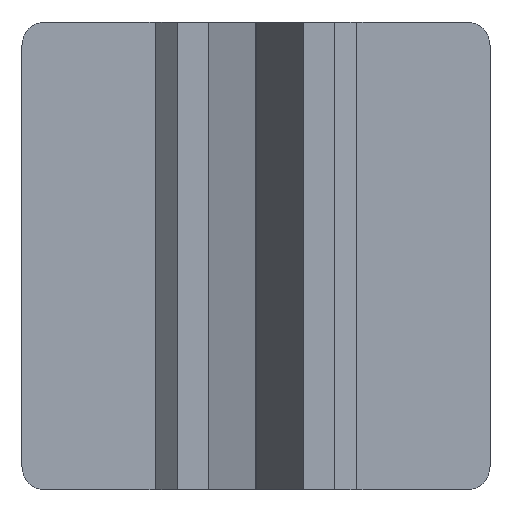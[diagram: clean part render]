
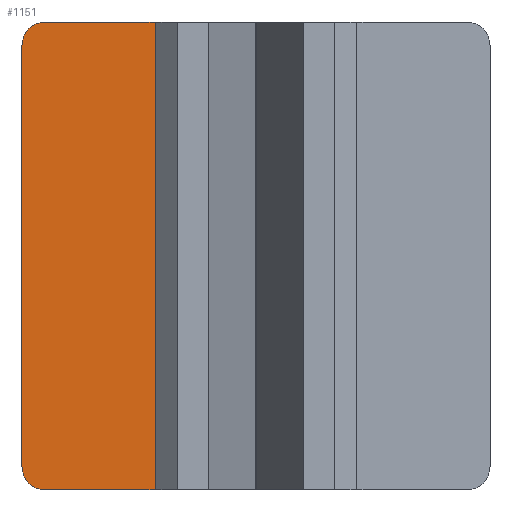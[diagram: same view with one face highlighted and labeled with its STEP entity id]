
A CAD part, front view. The second image highlights one B-rep face of the part: STEP entity #1151.
In plain terms, the highlighted planar face has unit normal (0, -1, 0).
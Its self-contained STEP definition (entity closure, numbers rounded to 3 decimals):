
#48=PLANE('',#1247);
#97=LINE('',#1713,#230);
#128=LINE('',#1774,#261);
#173=LINE('',#1870,#306);
#174=LINE('',#1872,#307);
#230=VECTOR('',#1400,10.);
#261=VECTOR('',#1437,10.);
#306=VECTOR('',#1536,10.);
#307=VECTOR('',#1539,10.);
#399=FACE_OUTER_BOUND('',#465,.T.);
#465=EDGE_LOOP('',(#1017,#1018,#1019,#1020,#1021,#1022));
#485=CIRCLE('',#1177,0.5);
#499=CIRCLE('',#1205,0.5);
#511=VERTEX_POINT('',#1605);
#512=VERTEX_POINT('',#1606);
#534=VERTEX_POINT('',#1669);
#535=VERTEX_POINT('',#1670);
#571=VERTEX_POINT('',#1772);
#595=VERTEX_POINT('',#1868);
#614=EDGE_CURVE('',#511,#512,#485,.T.);
#645=EDGE_CURVE('',#534,#535,#499,.T.);
#669=EDGE_CURVE('',#534,#512,#97,.T.);
#700=EDGE_CURVE('',#571,#511,#128,.T.);
#747=EDGE_CURVE('',#571,#595,#173,.T.);
#748=EDGE_CURVE('',#595,#535,#174,.T.);
#1017=ORIENTED_EDGE('',*,*,#645,.F.);
#1018=ORIENTED_EDGE('',*,*,#669,.T.);
#1019=ORIENTED_EDGE('',*,*,#614,.F.);
#1020=ORIENTED_EDGE('',*,*,#700,.F.);
#1021=ORIENTED_EDGE('',*,*,#747,.T.);
#1022=ORIENTED_EDGE('',*,*,#748,.T.);
#1151=ADVANCED_FACE('',(#399),#48,.T.);
#1177=AXIS2_PLACEMENT_3D('',#1607,#1286,#1287);
#1205=AXIS2_PLACEMENT_3D('',#1671,#1355,#1356);
#1247=AXIS2_PLACEMENT_3D('',#1871,#1537,#1538);
#1286=DIRECTION('center_axis',(0.,1.,0.));
#1287=DIRECTION('ref_axis',(-0.707,0.,-0.707));
#1355=DIRECTION('center_axis',(0.,1.,0.));
#1356=DIRECTION('ref_axis',(-0.707,0.,0.707));
#1400=DIRECTION('',(0.,0.,-1.));
#1437=DIRECTION('',(-1.,0.,0.));
#1536=DIRECTION('',(0.,0.,1.));
#1537=DIRECTION('center_axis',(0.,-1.,0.));
#1538=DIRECTION('ref_axis',(1.,0.,0.));
#1539=DIRECTION('',(-1.,0.,0.));
#1605=CARTESIAN_POINT('',(-4.5,0.,0.));
#1606=CARTESIAN_POINT('',(-5.,0.,0.5));
#1607=CARTESIAN_POINT('Origin',(-4.5,0.,0.5));
#1669=CARTESIAN_POINT('',(-5.,0.,9.5));
#1670=CARTESIAN_POINT('',(-4.5,0.,10.));
#1671=CARTESIAN_POINT('Origin',(-4.5,0.,9.5));
#1713=CARTESIAN_POINT('',(-5.,0.,2.5));
#1772=CARTESIAN_POINT('',(-2.05,0.,0.));
#1774=CARTESIAN_POINT('',(-2.25,0.,0.));
#1868=CARTESIAN_POINT('',(-2.05,0.,10.));
#1870=CARTESIAN_POINT('',(-2.05,0.,0.));
#1871=CARTESIAN_POINT('Origin',(-2.25,0.,0.));
#1872=CARTESIAN_POINT('',(-2.25,0.,10.));
